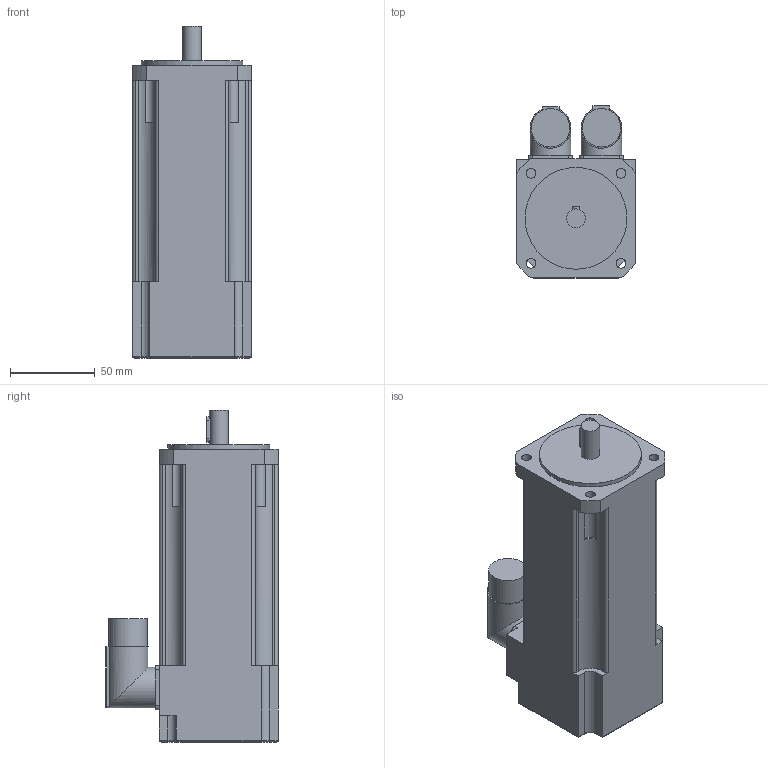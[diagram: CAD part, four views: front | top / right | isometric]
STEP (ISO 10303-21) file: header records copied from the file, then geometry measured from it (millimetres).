
FILE_DESCRIPTION(/* description */ (''),/* implementation_level */ '2;1');
FILE_NAME(/* name */ '\\Lafnas01\disegni\Archivi Lafert\3D\CAD 3D\MODELLI\Assiemi clienti\Serad\Modelli 3D Serad\B36Q\Encoder\Enc With brake\B36E2Qxx6BRx2033.ipt.stp',/* time_stamp */ '2015-09-07T10:49:19+02:00',/* author */ ('Pastrello Ylenia'),/* organization */ (''),/* preprocessor_version */ 'ST-DEVELOPER v15.6',/* originating_system */ 'Autodesk Inventor 2015',/* authorisation */ '');
FILE_SCHEMA (('AUTOMOTIVE_DESIGN { 1 0 10303 214 3 1 1 }'));
Length unit declared in the file: millimetre
Products named in the file (1): B36E2Qxx6BRx2033
Bounding box: 70 x 101.5 x 195.5 mm (x, y, z)
Volume: 816747.2 mm3; surface area: 66391.3 mm2
Topology: 1 solids, 1 shells, 121 faces, 322 edges, 210 vertices
Faces by surface type: plane 59, cylinder 58, torus 4
Full cylindrical faces by diameter (mm): 5.8 x4, 11 x1, 22.7 x2, 24 x2, 60 x1
Entity records: 3806 total; most frequent: CARTESIAN_POINT 678, DIRECTION 676, ORIENTED_EDGE 624, EDGE_CURVE 312, AXIS2_PLACEMENT_3D 244, VERTEX_POINT 210, LINE 188, VECTOR 188
